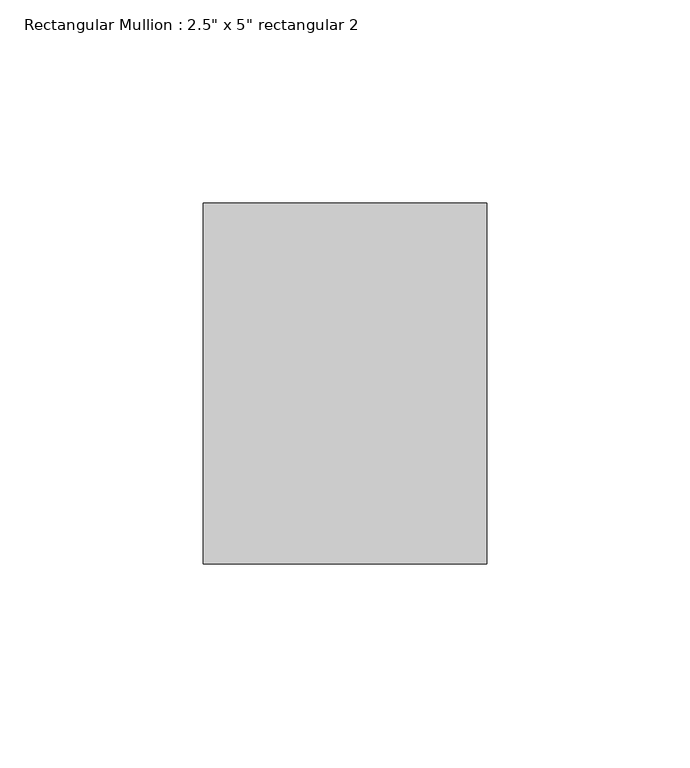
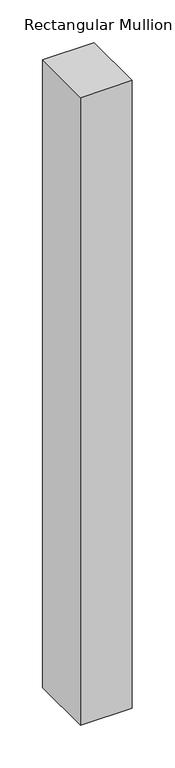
"""IFC4 building model written with IfcOpenShell, lengths in millimetres: member geometry."""

from ifc_helpers import new_model, si_unit, frame, origin, place, context, project, spatial, polyline, outline, extrude, source, transform, mapped, element, save


def member_d19af839(model_context):
    return source(origin(), model_context, "Body", "SweptSolid", [
        extrude(outline(polyline([(0.0, 44.45), (0.0, -44.45), (-69.85, -44.45), (-69.85, 44.45), (0.0, 44.45)])), frame((0.0, 0.0, -897.4666667), z_axis=(0.0, 0.0, 1.0), x_axis=(1.0, 0.0, 0.0)), (0.0, 0.0, 1.0), 897.4666667),
    ])


if __name__ == "__main__":
    model = new_model("IFC4")
    model_context = context("Model", 3, world=origin())
    ifc_project = project(units=[si_unit("LENGTHUNIT", "METRE", prefix="MILLI")], contexts=[model_context])
    site = spatial("IfcSite", under=ifc_project)
    building = spatial("IfcBuilding", under=site)
    placement = place(None, origin())
    member_shape = member_d19af839(model_context)
    element("IfcMember", 1, ObjectType="Rectangular Mullion : 2.5\" x 5\" rectangular 2", at=placement, inside=building, context=model_context, shape_type="MappedRepresentation", body=[
        mapped(member_shape, transform((0.0, 0.0, 0.0), x_axis=(1.0, 0.0, 0.0), y_axis=(0.0, 1.0, 0.0), z_axis=(0.0, 0.0, 1.0))),
    ])
    save(model, "model.ifc")
